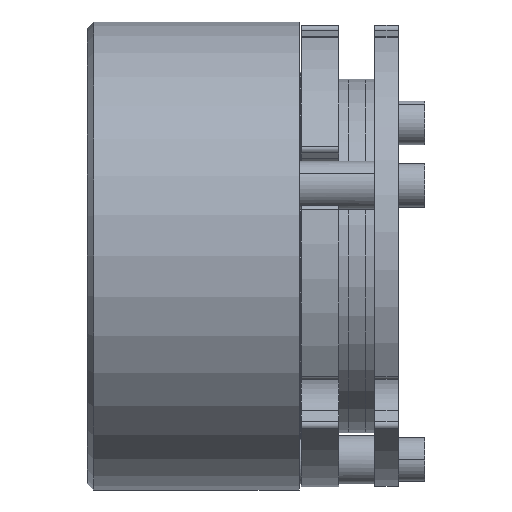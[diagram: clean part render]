
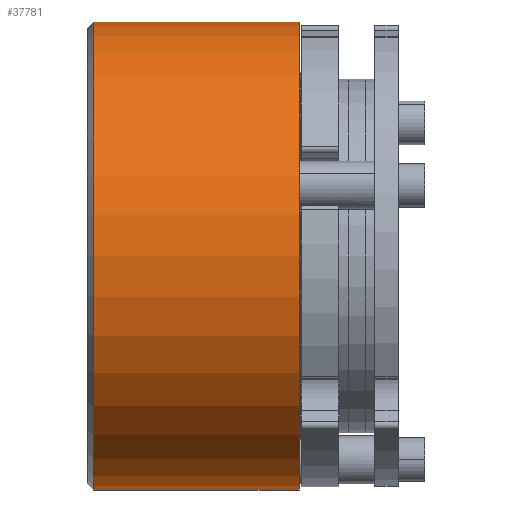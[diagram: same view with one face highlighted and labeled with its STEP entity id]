
A CAD part, front view. The second image highlights one B-rep face of the part: STEP entity #37781.
In plain terms, the highlighted cylindrical face has radius 19.037 mm (diameter 38.075 mm), a partial arc.
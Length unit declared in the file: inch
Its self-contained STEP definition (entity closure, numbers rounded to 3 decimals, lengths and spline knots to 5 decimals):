
#1199 = DIRECTION ( 'NONE',  ( -1., 0., 0. ) ) ;
#4106 = ORIENTED_EDGE ( 'NONE', *, *, #31320, .F. ) ;
#4162 = DIRECTION ( 'NONE',  ( 0., 0., 1. ) ) ;
#4643 = VERTEX_POINT ( 'NONE', #46655 ) ;
#4993 = DIRECTION ( 'NONE',  ( -1., 0., 0. ) ) ;
#5037 = FACE_OUTER_BOUND ( 'NONE', #40983, .T. ) ;
#7337 = EDGE_CURVE ( 'NONE', #18850, #4643, #22553, .T. ) ;
#9275 = CARTESIAN_POINT ( 'NONE',  ( -0.08819, 0., 0. ) ) ;
#10284 = VECTOR ( 'NONE', #4993, 39.37008 ) ;
#10705 = AXIS2_PLACEMENT_3D ( 'NONE', #40230, #16356, #4162 ) ;
#11769 = CARTESIAN_POINT ( 'NONE',  ( 0.678, 0., 0.7495 ) ) ;
#12448 = CYLINDRICAL_SURFACE ( 'NONE', #30408, 0.7495 ) ;
#13102 = ORIENTED_EDGE ( 'NONE', *, *, #41166, .T. ) ;
#16356 = DIRECTION ( 'NONE',  ( -1., 0., 0. ) ) ;
#16627 = ORIENTED_EDGE ( 'NONE', *, *, #7337, .F. ) ;
#17653 = CARTESIAN_POINT ( 'NONE',  ( 0.02, 0., -0.7495 ) ) ;
#18153 = LINE ( 'NONE', #18406, #25809 ) ;
#18406 = CARTESIAN_POINT ( 'NONE',  ( -0.08819, 0., 0.7495 ) ) ;
#18759 = CARTESIAN_POINT ( 'NONE',  ( 0.678, 0., -0.7495 ) ) ;
#18850 = VERTEX_POINT ( 'NONE', #17653 ) ;
#22553 = CIRCLE ( 'NONE', #10705, 0.7495 ) ;
#23243 = VERTEX_POINT ( 'NONE', #18759 ) ;
#23567 = CARTESIAN_POINT ( 'NONE',  ( 0.678, 0., 0. ) ) ;
#24374 = DIRECTION ( 'NONE',  ( -1., 0., 0. ) ) ;
#25809 = VECTOR ( 'NONE', #1199, 39.37008 ) ;
#30408 = AXIS2_PLACEMENT_3D ( 'NONE', #9275, #24374, #36587 ) ;
#31320 = EDGE_CURVE ( 'NONE', #23243, #18850, #40527, .T. ) ;
#31523 = DIRECTION ( 'NONE',  ( 0., 0., 1. ) ) ;
#32913 = AXIS2_PLACEMENT_3D ( 'NONE', #23567, #52226, #31523 ) ;
#33935 = VERTEX_POINT ( 'NONE', #11769 ) ;
#34894 = EDGE_CURVE ( 'NONE', #23243, #33935, #40525, .T. ) ;
#36587 = DIRECTION ( 'NONE',  ( 0., 0., 1. ) ) ;
#37781 = ADVANCED_FACE ( 'NONE', ( #5037 ), #12448, .T. ) ;
#39203 = ORIENTED_EDGE ( 'NONE', *, *, #34894, .T. ) ;
#40230 = CARTESIAN_POINT ( 'NONE',  ( 0.02, 0., 0. ) ) ;
#40525 = CIRCLE ( 'NONE', #32913, 0.7495 ) ;
#40527 = LINE ( 'NONE', #40796, #10284 ) ;
#40796 = CARTESIAN_POINT ( 'NONE',  ( -0.08819, 0., -0.7495 ) ) ;
#40983 = EDGE_LOOP ( 'NONE', ( #4106, #39203, #13102, #16627 ) ) ;
#41166 = EDGE_CURVE ( 'NONE', #33935, #4643, #18153, .T. ) ;
#46655 = CARTESIAN_POINT ( 'NONE',  ( 0.02, 0., 0.7495 ) ) ;
#52226 = DIRECTION ( 'NONE',  ( -1., 0., 0. ) ) ;
